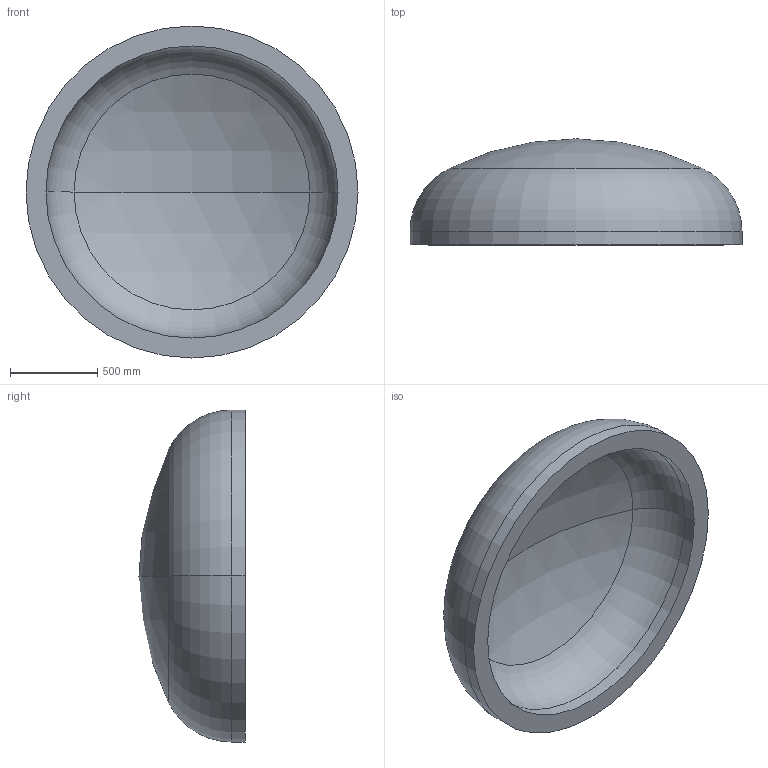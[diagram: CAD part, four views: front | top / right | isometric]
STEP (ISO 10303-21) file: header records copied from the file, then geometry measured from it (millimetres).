
FILE_DESCRIPTION (( 'STEP AP203' ), '1' );
FILE_NAME ('DIN 28013 Korbbogenform_-_Boden DIN 28013 - 1900 x 75 - I - s=114.step', '2016-07-01T13:29:42', ( '' ), ( '' ), 'SwSTEP 2.0', 'SolidWorks 2013', '' );
FILE_SCHEMA (( 'CONFIG_CONTROL_DESIGN' ));
Length unit declared in the file: millimetre
Products named in the file (1): DIN 28013 Korbbogenform_-_Boden DIN 28013 - 1900 x 75 - I - s=114
Bounding box: 1900 x 606.83 x 1900 mm (x, y, z)
Volume: 461909828.5 mm3; surface area: 8770538.7 mm2
Topology: 1 solids, 1 shells, 13 faces, 24 edges, 14 vertices
Faces by surface type: torus 4, cylinder 4, sphere 4, plane 1
Entity records: 407 total; most frequent: DIRECTION 72, CARTESIAN_POINT 52, ORIENTED_EDGE 48, AXIS2_PLACEMENT_3D 34, EDGE_CURVE 24, CIRCLE 20, EDGE_LOOP 14, VERTEX_POINT 14
